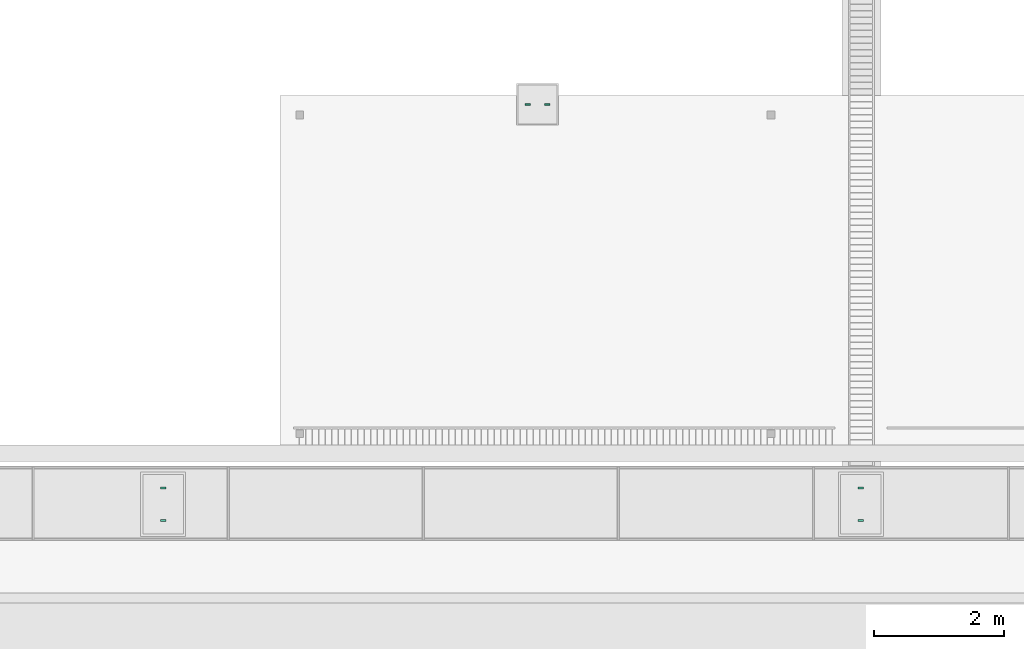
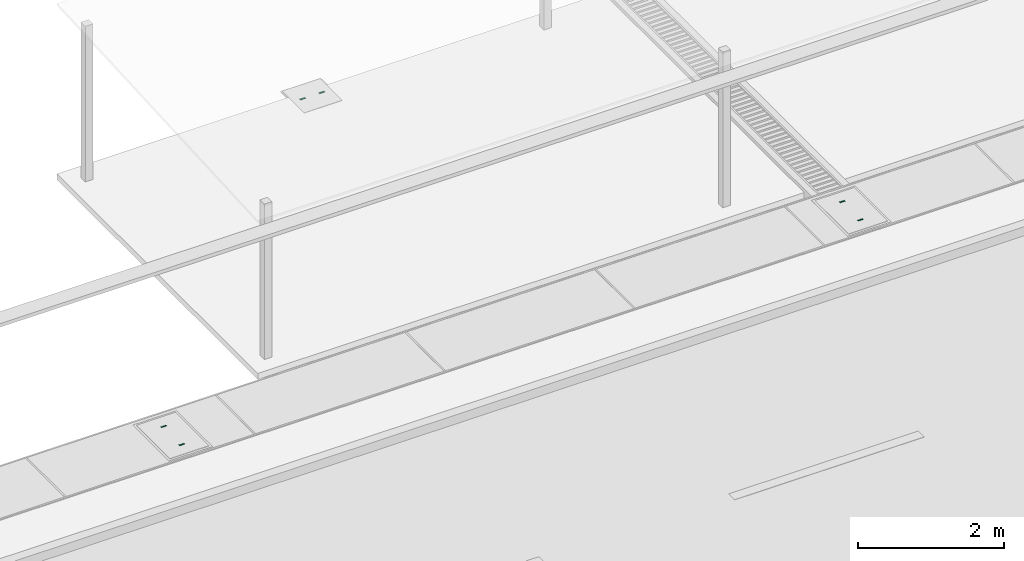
# One storey, part 66 of 90: 6 distribution chamber elements.
"""IFC2X3 building model written with IfcOpenShell, lengths in metres."""

from ifc_helpers import new_model, si_unit, origin, origin_with_axes, place, context, subcontext, project, spatial, faceted_brep, element, save


model = new_model("IFC2X3")

# Units and contexts
model_context = context("Model", 3, precision=1e-05, world=origin_with_axes())
body_context = subcontext(model_context, "Body", "Model", "MODEL_VIEW")
ifc_project = project(units=[si_unit("LENGTHUNIT", "METRE"), si_unit("AREAUNIT", "SQUARE_METRE"), si_unit("VOLUMEUNIT", "CUBIC_METRE"), si_unit("PLANEANGLEUNIT", "RADIAN")], contexts=[model_context])

# Site, building, storey
site_placement = place(None, origin_with_axes())
site = spatial("IfcSite", under=ifc_project, at=site_placement, Name="Predio Los Mangos - Morales, San Martín", CompositionType="ELEMENT")
building_placement = place(site_placement, origin())
building = spatial("IfcBuilding", under=site, at=building_placement, Name="Hogar de Refugio Temporal", CompositionType="ELEMENT")
storey_placement = place(building_placement, origin())
storey = spatial("IfcBuildingStorey", under=building, at=storey_placement, Name="NIVEL 1 (NPT +0.00)", CompositionType="ELEMENT", Elevation=0.0)

# Distribution chamber elements
distribution_chamber_element_1_placement = place(storey_placement, origin())
element("IfcDistributionChamberElement", 1, at=distribution_chamber_element_1_placement, inside=storey, Name="tapa_insp_asa", ObjectType="Tapa de inspección", context=body_context, shape_type="Brep", body=[
    faceted_brep([(55.568, 23.354, 0.104), (55.568, 23.378, 0.104), (55.648, 23.378, 0.104), (55.648, 23.354, 0.104), (55.568, 23.354, 0.108), (55.648, 23.354, 0.108), (55.648, 23.378, 0.108), (55.568, 23.378, 0.108)], [[[0, 1, 2, 3]], [[4, 5, 6, 7]], [[0, 3, 5, 4]], [[3, 2, 6, 5]], [[2, 1, 7, 6]], [[1, 0, 4, 7]]]),
])
distribution_chamber_element_2_placement = place(storey_placement, origin())
element("IfcDistributionChamberElement", 2, at=distribution_chamber_element_2_placement, inside=storey, Name="tapa_insp_asa", ObjectType="Tapa de inspección", context=body_context, shape_type="Brep", body=[
    faceted_brep([(55.868, 23.354, 0.104), (55.868, 23.378, 0.104), (55.948, 23.378, 0.104), (55.948, 23.354, 0.104), (55.868, 23.354, 0.108), (55.948, 23.354, 0.108), (55.948, 23.378, 0.108), (55.868, 23.378, 0.108)], [[[0, 1, 2, 3]], [[4, 5, 6, 7]], [[0, 3, 5, 4]], [[3, 2, 6, 5]], [[2, 1, 7, 6]], [[1, 0, 4, 7]]]),
])
distribution_chamber_element_3_placement = place(storey_placement, origin())
element("IfcDistributionChamberElement", 3, at=distribution_chamber_element_3_placement, inside=storey, Name="tapa_asa", ObjectType="Tapa ciega de registro del colector", context=body_context, shape_type="Brep", body=[
    faceted_brep([(60.69, 16.953, 0.168), (60.69, 16.977, 0.168), (60.77, 16.977, 0.168), (60.77, 16.953, 0.168), (60.69, 16.953, 0.172), (60.77, 16.953, 0.172), (60.77, 16.977, 0.172), (60.69, 16.977, 0.172)], [[[0, 1, 2, 3]], [[4, 5, 6, 7]], [[0, 3, 5, 4]], [[3, 2, 6, 5]], [[2, 1, 7, 6]], [[1, 0, 4, 7]]]),
])
distribution_chamber_element_4_placement = place(storey_placement, origin())
element("IfcDistributionChamberElement", 4, at=distribution_chamber_element_4_placement, inside=storey, Name="tapa_asa", ObjectType="Tapa ciega de registro del colector", context=body_context, shape_type="Brep", body=[
    faceted_brep([(60.69, 17.453, 0.168), (60.69, 17.477, 0.168), (60.77, 17.477, 0.168), (60.77, 17.453, 0.168), (60.69, 17.453, 0.172), (60.77, 17.453, 0.172), (60.77, 17.477, 0.172), (60.69, 17.477, 0.172)], [[[0, 1, 2, 3]], [[4, 5, 6, 7]], [[0, 3, 5, 4]], [[3, 2, 6, 5]], [[2, 1, 7, 6]], [[1, 0, 4, 7]]]),
])
distribution_chamber_element_5_placement = place(storey_placement, origin())
element("IfcDistributionChamberElement", 5, at=distribution_chamber_element_5_placement, inside=storey, Name="tapa_asa", ObjectType="Tapa ciega de registro del colector", context=body_context, shape_type="Brep", body=[
    faceted_brep([(49.96, 16.953, 0.168), (49.96, 16.977, 0.168), (50.04, 16.977, 0.168), (50.04, 16.953, 0.168), (49.96, 16.953, 0.172), (50.04, 16.953, 0.172), (50.04, 16.977, 0.172), (49.96, 16.977, 0.172)], [[[0, 1, 2, 3]], [[4, 5, 6, 7]], [[0, 3, 5, 4]], [[3, 2, 6, 5]], [[2, 1, 7, 6]], [[1, 0, 4, 7]]]),
])
distribution_chamber_element_6_placement = place(storey_placement, origin())
element("IfcDistributionChamberElement", 6, at=distribution_chamber_element_6_placement, inside=storey, Name="tapa_asa", ObjectType="Tapa ciega de registro del colector", context=body_context, shape_type="Brep", body=[
    faceted_brep([(49.96, 17.453, 0.168), (49.96, 17.477, 0.168), (50.04, 17.477, 0.168), (50.04, 17.453, 0.168), (49.96, 17.453, 0.172), (50.04, 17.453, 0.172), (50.04, 17.477, 0.172), (49.96, 17.477, 0.172)], [[[0, 1, 2, 3]], [[4, 5, 6, 7]], [[0, 3, 5, 4]], [[3, 2, 6, 5]], [[2, 1, 7, 6]], [[1, 0, 4, 7]]]),
])

save(model, "model.ifc")
